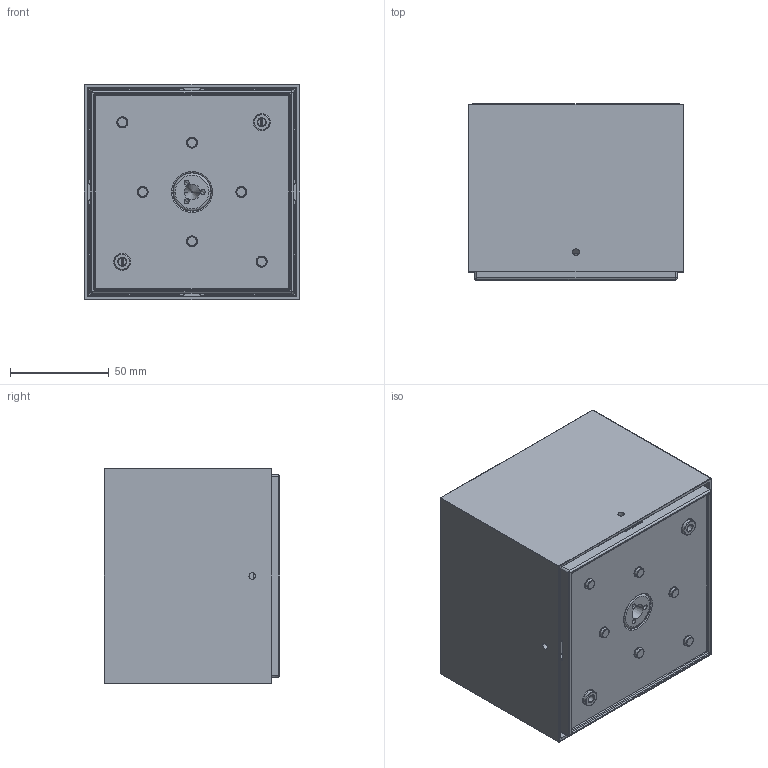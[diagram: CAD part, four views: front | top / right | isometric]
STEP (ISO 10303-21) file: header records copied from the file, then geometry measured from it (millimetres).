
FILE_DESCRIPTION((''),'2;1');
FILE_NAME('KURA_TOP_3X3_SW0001','2025-12-11T14:47:17',('Bonardi'),(''),'CREO PARAMETRIC BY PTC INC, 2025010','CREO PARAMETRIC BY PTC INC, 2025010','');
FILE_SCHEMA(('AUTOMOTIVE_DESIGN { 1 0 10303 214 1 1 1 1 }'));
Products named in the file (1): KURA_TOP_3X3_SW0001
Bounding box: 109.3 x 89.1 x 109.3 mm (x, y, z)
Surface area: 176235.8 mm2 (no closed solid volume)
Topology: 0 solids, 117 shells, 2050 faces, 8810 edges, 6619 vertices
Faces by surface type: cylinder 621, bspline 569, plane 446, cone 204, torus 118, extrusion 72, revolution 18, sphere 2
Entity records: 153968 total; most frequent: CARTESIAN_POINT 79909, ORIENTED_EDGE 11771, DIRECTION 9784, EDGE_CURVE 8810, VERTEX_POINT 6619, B_SPLINE_CURVE_WITH_KNOTS 4201, AXIS2_PLACEMENT_3D 3604, VECTOR 2558
